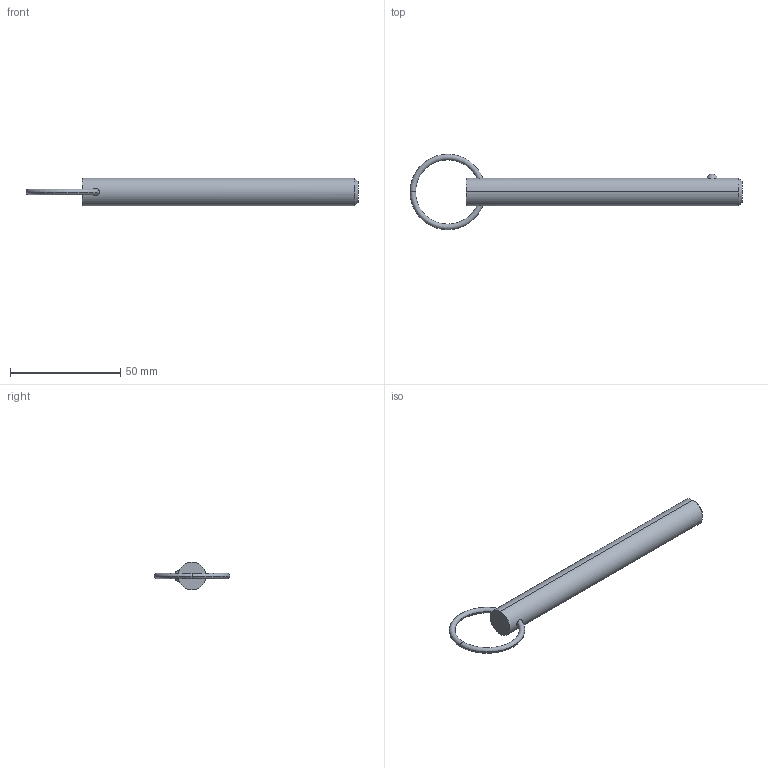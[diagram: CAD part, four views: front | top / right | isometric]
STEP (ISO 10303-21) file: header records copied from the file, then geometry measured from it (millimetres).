
FILE_DESCRIPTION (( 'STEP AP203' ), '1' );
FILE_NAME ('33012.W5040.step', '2024-11-01T14:13:31', ( '' ), ( '' ), 'SwSTEP 2.0', 'SolidWorks 2019', '' );
FILE_SCHEMA (( 'CONFIG_CONTROL_DESIGN' ));
Length unit declared in the file: millimetre
Products named in the file (3): Part1_33012.W5040; Part2_33012.W5040; 33012.W5040
Assembly tree (2 placements, depth 2):
  33012.W5040
    Part1_33012.W5040
    Part2_33012.W5040
Bounding box: 150.89 x 34.29 x 12.7 mm (x, y, z)
Volume: 16262.1 mm3; surface area: 6135.4 mm2
Topology: 2 solids, 2 shells, 16 faces, 31 edges, 18 vertices
Faces by surface type: torus 8, sphere 2, cone 2, cylinder 2, plane 2
Entity records: 885 total; most frequent: CARTESIAN_POINT 242, DIRECTION 88, ORIENTED_EDGE 62, AXIS2_PLACEMENT_3D 42, EDGE_CURVE 31, PERSON_AND_ORGANIZATION 26, CIRCLE 21, EDGE_LOOP 19
